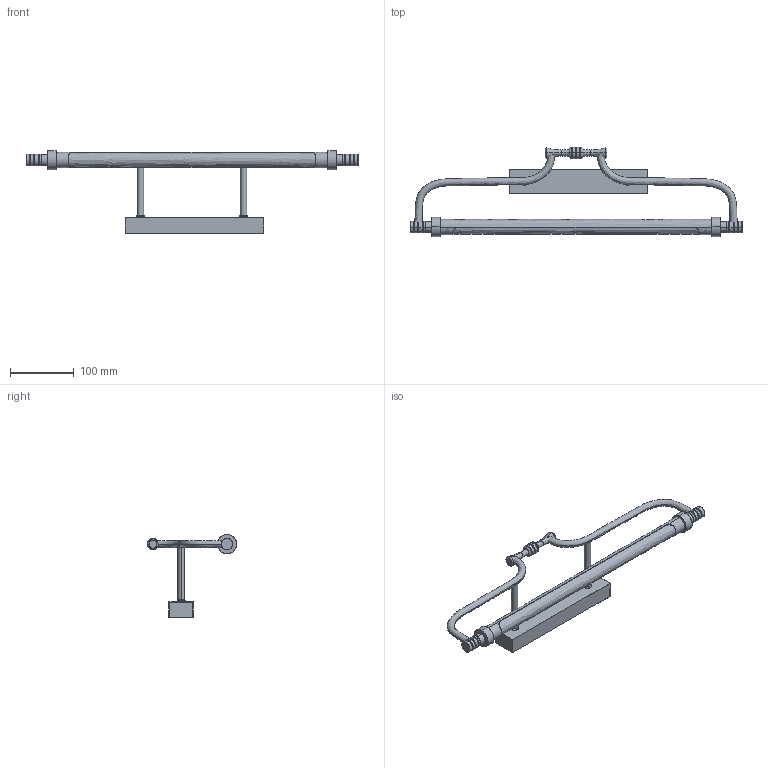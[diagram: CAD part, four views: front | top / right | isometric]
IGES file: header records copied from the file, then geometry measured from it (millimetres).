
Start section: SolidWorks IGES file using analytic representation for surfaces
Global section: file name: F:\燠隴矨\3D\2025-12\Arclore Gallery Vanity Wall Light.IGS,15; native system: HSolidWorks 2022; preprocessor: SolidWorks 2022; author: MyPC; date: 251207.115145; units: millimetre
Bounding box: 520 x 139.68 x 130 mm (x, y, z)
Surface area: 139361.7 mm2 (no closed solid volume)
Topology: 0 solids, 0 shells, 154 faces, 1833 edges, 1829 vertices
Faces by surface type: bspline 110, revolution 44
